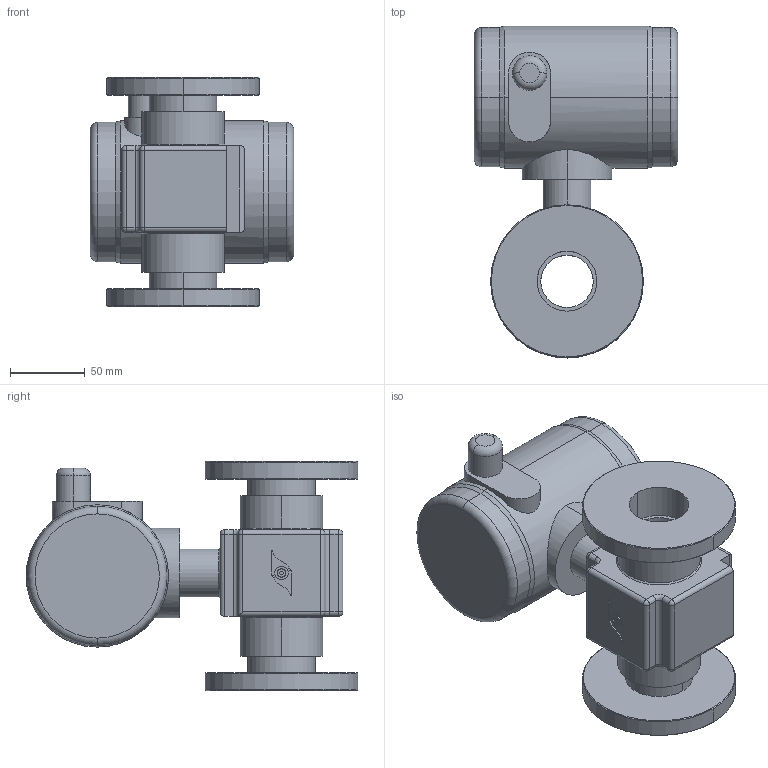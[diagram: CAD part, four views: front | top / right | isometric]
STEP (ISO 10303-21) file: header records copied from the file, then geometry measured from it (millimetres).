
FILE_DESCRIPTION (( 'STEP AP203' ), '1' );
FILE_NAME ('PC50.STEP', '2015-11-09T07:21:53', ( '' ), ( '' ), 'SwSTEP 2.0', 'SolidWorks 2015', '' );
FILE_SCHEMA (( 'CONFIG_CONTROL_DESIGN' ));
Length unit declared in the file: millimetre
Products named in the file (2): PC50
Bounding box: 136 x 221.5 x 153 mm (x, y, z)
Volume: 1550840 mm3; surface area: 150940.4 mm2
Topology: 3 solids, 3 shells, 177 faces, 400 edges, 236 vertices
Faces by surface type: cylinder 76, plane 54, cone 18, torus 11, sphere 10, bspline 8
Entity records: 5274 total; most frequent: CARTESIAN_POINT 1149, DIRECTION 883, ORIENTED_EDGE 780, EDGE_CURVE 390, AXIS2_PLACEMENT_3D 346, VERTEX_POINT 236, EDGE_LOOP 200, LINE 191
